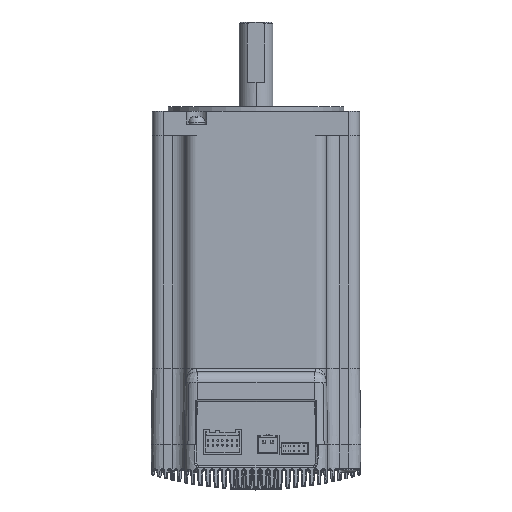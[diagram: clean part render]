
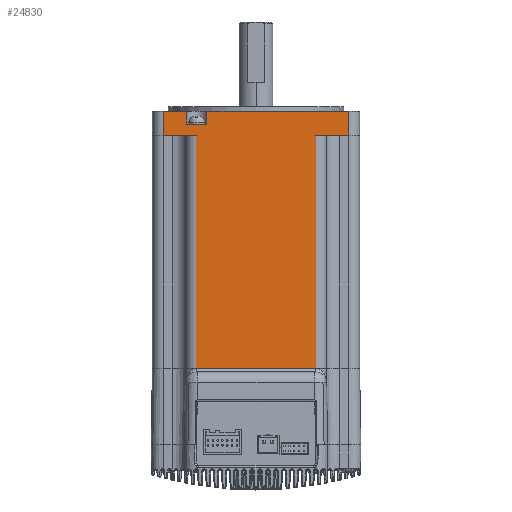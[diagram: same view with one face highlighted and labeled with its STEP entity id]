
A CAD part, top view. The second image highlights one B-rep face of the part: STEP entity #24830.
In plain terms, the highlighted planar face has unit normal (0, 0, 1).
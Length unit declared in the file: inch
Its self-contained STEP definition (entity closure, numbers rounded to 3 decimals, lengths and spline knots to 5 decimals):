
#8954=EDGE_CURVE('',#12899,#11736,#26938,.T.);
#9741=EDGE_CURVE('',#18630,#23461,#27795,.T.);
#9866=VERTEX_POINT('',#27929);
#10563=EDGE_CURVE('',#15555,#18684,#28708,.T.);
#11381=EDGE_CURVE('',#16274,#19826,#29611,.T.);
#11736=VERTEX_POINT('',#30001);
#12355=VERTEX_POINT('',#30676);
#12899=VERTEX_POINT('',#31268);
#13915=EDGE_CURVE('',#18684,#16189,#32385,.T.);
#14712=EDGE_CURVE('',#12355,#15555,#33268,.T.);
#15244=EDGE_CURVE('',#12899,#16479,#33848,.T.);
#15555=VERTEX_POINT('',#34187);
#16189=VERTEX_POINT('',#34882);
#16274=VERTEX_POINT('',#34973);
#16479=VERTEX_POINT('',#35196);
#16486=EDGE_CURVE('',#23461,#16274,#35204,.T.);
#18630=VERTEX_POINT('',#37574);
#18684=VERTEX_POINT('',#37632);
#19826=VERTEX_POINT('',#38895);
#20580=EDGE_CURVE('',#16189,#19826,#39717,.T.);
#21169=EDGE_CURVE('',#11736,#12355,#40368,.T.);
#23461=VERTEX_POINT('',#42864);
#24830=ADVANCED_FACE('New 3D Block[1]',(#44375),#44376,.T.);
#25025=EDGE_CURVE('',#16479,#9866,#44586,.T.);
#25681=EDGE_CURVE('',#9866,#18630,#45297,.T.);
#26938=LINE('',#49864,#49865);
#27795=LINE('',#52847,#52848);
#27929=CARTESIAN_POINT('',(-4.38436,0.,6.74848));
#28708=LINE('',#56262,#56263);
#29611=LINE('',#59135,#59136);
#30001=CARTESIAN_POINT('',(-3.84036,4.189,6.74848));
#30676=CARTESIAN_POINT('',(-6.15636,4.189,6.74848));
#31268=CARTESIAN_POINT('',(-3.84036,3.795,6.74848));
#32385=LINE('',#69312,#69313);
#33268=LINE('',#72818,#72819);
#33848=LINE('',#74421,#74422);
#34187=CARTESIAN_POINT('',(-6.15636,3.979,6.74848));
#34882=CARTESIAN_POINT('',(-6.48636,4.189,6.74848));
#34973=CARTESIAN_POINT('',(-6.87036,3.795,6.74848));
#35196=CARTESIAN_POINT('',(-4.38436,3.795,6.74848));
#35204=LINE('',#78732,#78733);
#37574=CARTESIAN_POINT('',(-6.32636,0.,6.74848));
#37632=CARTESIAN_POINT('',(-6.48636,3.979,6.74848));
#38895=CARTESIAN_POINT('',(-6.87036,4.189,6.74848));
#39717=LINE('',#95249,#95250);
#40368=LINE('',#97705,#97706);
#42864=CARTESIAN_POINT('',(-6.32636,3.795,6.74848));
#44375=FACE_OUTER_BOUND('',#110784,.T.);
#44376=PLANE('',#110785);
#44586=LINE('',#111187,#111188);
#45297=LINE('',#113721,#113722);
#49864=CARTESIAN_POINT('',(-3.84036,3.789,6.74848));
#49865=VECTOR('',#116231,39.37008);
#52847=CARTESIAN_POINT('',(-6.32636,0.,6.74848));
#52848=VECTOR('',#117014,39.37008);
#56262=CARTESIAN_POINT('',(-6.32386,3.979,6.74848));
#56263=VECTOR('',#117902,39.37008);
#59135=CARTESIAN_POINT('',(-6.87036,3.789,6.74848));
#59136=VECTOR('',#118785,39.37008);
#69312=CARTESIAN_POINT('',(-6.48636,4.189,6.74848));
#69313=VECTOR('',#121367,39.37008);
#72818=CARTESIAN_POINT('',(-6.15636,4.189,6.74848));
#72819=VECTOR('',#122270,39.37008);
#74421=CARTESIAN_POINT('',(-6.87036,3.795,6.74848));
#74422=VECTOR('',#122806,39.37008);
#78732=CARTESIAN_POINT('',(-6.87036,3.795,6.74848));
#78733=VECTOR('',#124007,39.37008);
#95249=CARTESIAN_POINT('',(-6.87036,4.189,6.74848));
#95250=VECTOR('',#128191,39.37008);
#97705=CARTESIAN_POINT('',(-6.87036,4.189,6.74848));
#97706=VECTOR('',#128812,39.37008);
#110784=EDGE_LOOP('',(#132558,#132559,#132560,#132561,#132562,#132563,#132564,#132565,#132566,#132567,#132568,#132569));
#110785=AXIS2_PLACEMENT_3D('',#132570,#132571,#132572);
#111187=CARTESIAN_POINT('',(-4.38436,1.73,6.74848));
#111188=VECTOR('',#132760,39.37008);
#113721=CARTESIAN_POINT('',(-6.32636,0.,6.74848));
#113722=VECTOR('',#133412,39.37008);
#116231=DIRECTION('',(0.0,1.0,0.0));
#117014=DIRECTION('',(0.0,1.0,0.0));
#117902=DIRECTION('',(-1.0,0.,0.0));
#118785=DIRECTION('',(0.0,1.0,0.0));
#121367=DIRECTION('',(0.0,1.0,0.0));
#122270=DIRECTION('',(0.0,-1.0,0.0));
#122806=DIRECTION('',(-1.0,0.0,0.0));
#124007=DIRECTION('',(-1.0,0.0,0.0));
#128191=DIRECTION('',(-1.0,0.0,0.0));
#128812=DIRECTION('',(-1.0,0.0,0.0));
#132558=ORIENTED_EDGE('',*,*,#9741,.F.);
#132559=ORIENTED_EDGE('',*,*,#25681,.F.);
#132560=ORIENTED_EDGE('',*,*,#25025,.F.);
#132561=ORIENTED_EDGE('',*,*,#15244,.F.);
#132562=ORIENTED_EDGE('',*,*,#8954,.T.);
#132563=ORIENTED_EDGE('',*,*,#21169,.T.);
#132564=ORIENTED_EDGE('',*,*,#14712,.T.);
#132565=ORIENTED_EDGE('',*,*,#10563,.T.);
#132566=ORIENTED_EDGE('',*,*,#13915,.T.);
#132567=ORIENTED_EDGE('',*,*,#20580,.T.);
#132568=ORIENTED_EDGE('',*,*,#11381,.F.);
#132569=ORIENTED_EDGE('',*,*,#16486,.F.);
#132570=CARTESIAN_POINT('',(-4.38436,0.,6.74848));
#132571=DIRECTION('',(0.0,0.0,1.0));
#132572=DIRECTION('',(1.0,0.0,0.0));
#132760=DIRECTION('',(0.0,-1.0,0.0));
#133412=DIRECTION('',(-1.0,0.0,0.0));
